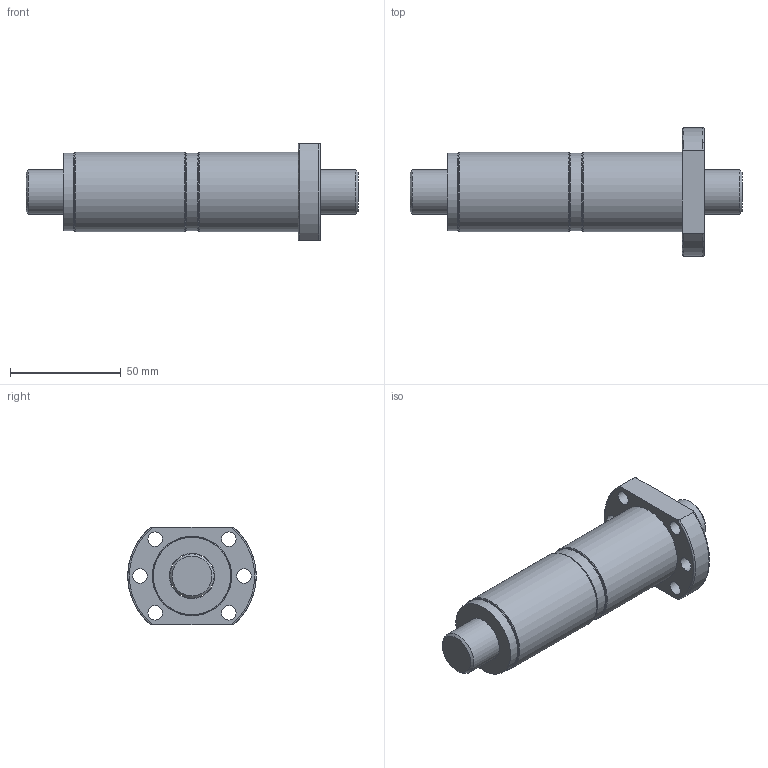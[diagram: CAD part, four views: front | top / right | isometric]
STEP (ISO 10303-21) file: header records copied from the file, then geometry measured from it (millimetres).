
FILE_DESCRIPTION(/* description */ (''),/* implementation_level */ '2;1');
FILE_NAME(/* name */ 'DFS2008',/* time_stamp */ '2007-10-26T13:34:14+08:00',/* author */ (''),/* organization */ (''),/* preprocessor_version */ 'ST-DEVELOPER v9',/* originating_system */ 'UGS - NX 3.0',/* authorisation */ '');
FILE_SCHEMA (('CONFIG_CONTROL_DESIGN'));
Length unit declared in the file: millimetre
Products named in the file (1): jaso15A4i31x
Bounding box: 150 x 58 x 44 mm (x, y, z)
Volume: 130653 mm3; surface area: 43356.7 mm2
Topology: 7 solids, 7 shells, 51 faces, 103 edges, 68 vertices
Faces by surface type: cylinder 22, plane 18, torus 9, cone 2
Full cylindrical faces by diameter (mm): 6.6 x6, 20 x1, 20.3 x1, 20.5 x2, 22 x2, 23 x1, 35 x4, 36 x3
Entity records: 1429 total; most frequent: CARTESIAN_POINT 333, DIRECTION 222, ORIENTED_EDGE 142, AXIS2_PLACEMENT_3D 107, EDGE_LOOP 104, FACE_BOUND 78, EDGE_CURVE 71, VERTEX_POINT 63
